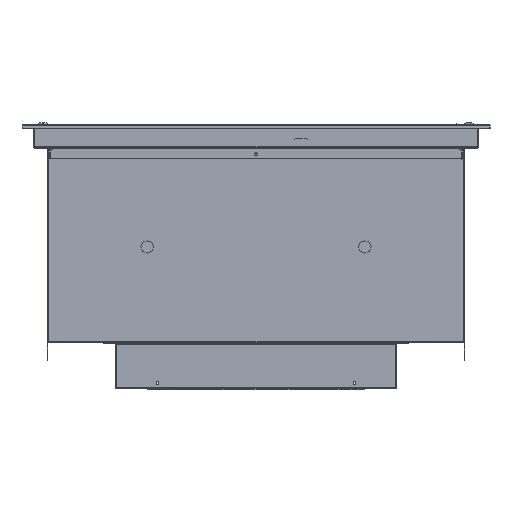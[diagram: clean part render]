
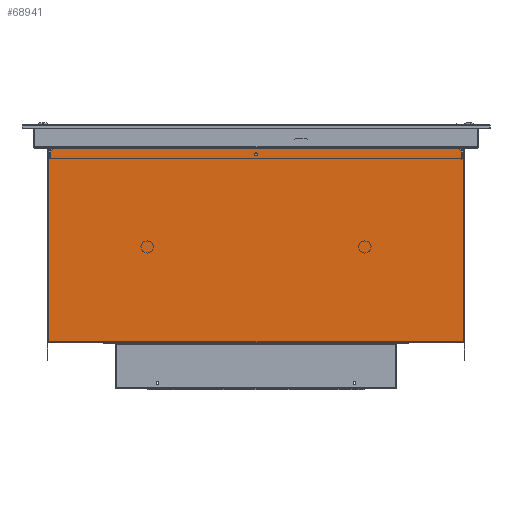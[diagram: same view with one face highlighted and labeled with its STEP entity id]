
A CAD part, left-side view. The second image highlights one B-rep face of the part: STEP entity #68941.
In plain terms, the highlighted planar face has unit normal (-1, 0, 0).
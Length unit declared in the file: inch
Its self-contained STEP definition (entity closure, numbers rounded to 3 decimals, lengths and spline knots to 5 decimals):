
#651 = CARTESIAN_POINT ( 'NONE',  ( -10.56225, -10.26604, -1.228 ) ) ;
#974 = AXIS2_PLACEMENT_3D ( 'NONE', #75238, #104616, #67732 ) ;
#2162 = DIRECTION ( 'NONE',  ( 0., 0., 1. ) ) ;
#5170 = ORIENTED_EDGE ( 'NONE', *, *, #72469, .T. ) ;
#7768 = ORIENTED_EDGE ( 'NONE', *, *, #30643, .T. ) ;
#8228 = CARTESIAN_POINT ( 'NONE',  ( -10.56225, -10.50725, -1.46921 ) ) ;
#9038 = VERTEX_POINT ( 'NONE', #98297 ) ;
#9711 = ORIENTED_EDGE ( 'NONE', *, *, #87036, .T. ) ;
#9765 = EDGE_LOOP ( 'NONE', ( #117261, #34591, #9711, #45927 ) ) ;
#10561 = VERTEX_POINT ( 'NONE', #41251 ) ;
#11491 = EDGE_CURVE ( 'NONE', #16533, #76732, #91624, .T. ) ;
#12156 = LINE ( 'NONE', #115344, #65140 ) ;
#12678 = LINE ( 'NONE', #105908, #51299 ) ;
#13471 = VERTEX_POINT ( 'NONE', #106038 ) ;
#13824 = LINE ( 'NONE', #46136, #112776 ) ;
#15050 = VECTOR ( 'NONE', #33085, 39.37008 ) ;
#15260 = DIRECTION ( 'NONE',  ( -1., 0., 0. ) ) ;
#16169 = EDGE_CURVE ( 'NONE', #87390, #13471, #106042, .T. ) ;
#16489 = DIRECTION ( 'NONE',  ( 0., 0., -1. ) ) ;
#16533 = VERTEX_POINT ( 'NONE', #33808 ) ;
#16562 = CARTESIAN_POINT ( 'NONE',  ( -10.56225, -10.52225, -1.46921 ) ) ;
#23327 = EDGE_CURVE ( 'NONE', #69341, #111918, #38243, .T. ) ;
#26135 = DIRECTION ( 'NONE',  ( 0., 1., 0. ) ) ;
#26754 = EDGE_CURVE ( 'NONE', #10561, #116802, #13824, .T. ) ;
#28975 = ORIENTED_EDGE ( 'NONE', *, *, #11491, .T. ) ;
#29466 = DIRECTION ( 'NONE',  ( 0., 1., 0. ) ) ;
#29709 = DIRECTION ( 'NONE',  ( 0., 0., -1. ) ) ;
#30643 = EDGE_CURVE ( 'NONE', #9038, #77417, #12678, .T. ) ;
#31280 = DIRECTION ( 'NONE',  ( 0., 0., -1. ) ) ;
#32200 = LINE ( 'NONE', #119049, #71233 ) ;
#32825 = CARTESIAN_POINT ( 'NONE',  ( -10.56225, 10.26604, -1.228 ) ) ;
#33085 = DIRECTION ( 'NONE',  ( 0., -1., 0. ) ) ;
#33688 = LINE ( 'NONE', #87034, #69452 ) ;
#33715 = AXIS2_PLACEMENT_3D ( 'NONE', #32825, #15260, #82183 ) ;
#33808 = CARTESIAN_POINT ( 'NONE',  ( -10.56225, -10.27664, -1.21739 ) ) ;
#33968 = DIRECTION ( 'NONE',  ( 0., 0., 1. ) ) ;
#34591 = ORIENTED_EDGE ( 'NONE', *, *, #109020, .T. ) ;
#34938 = EDGE_CURVE ( 'NONE', #13471, #16533, #33688, .T. ) ;
#35990 = VERTEX_POINT ( 'NONE', #122361 ) ;
#37619 = CIRCLE ( 'NONE', #33715, 0.015 ) ;
#38243 = LINE ( 'NONE', #48837, #103453 ) ;
#39882 = CARTESIAN_POINT ( 'NONE',  ( -10.56225, -10.26604, -1.213 ) ) ;
#40384 = VECTOR ( 'NONE', #54035, 39.37008 ) ;
#41251 = CARTESIAN_POINT ( 'NONE',  ( -10.56225, -10.52225, -11.0186 ) ) ;
#42474 = LINE ( 'NONE', #116867, #15050 ) ;
#42947 = CIRCLE ( 'NONE', #974, 0.07 ) ;
#44455 = EDGE_CURVE ( 'NONE', #111918, #46570, #32200, .T. ) ;
#44642 = CARTESIAN_POINT ( 'NONE',  ( -10.56225, 10.51786, -1.45861 ) ) ;
#45471 = CIRCLE ( 'NONE', #101346, 0.015 ) ;
#45617 = DIRECTION ( 'NONE',  ( 1., 0., 0. ) ) ;
#45927 = ORIENTED_EDGE ( 'NONE', *, *, #23327, .T. ) ;
#46136 = CARTESIAN_POINT ( 'NONE',  ( -10.56225, 10.56225, -11.0186 ) ) ;
#46570 = VERTEX_POINT ( 'NONE', #56181 ) ;
#47640 = DIRECTION ( 'NONE',  ( 0., 0., -1. ) ) ;
#48837 = CARTESIAN_POINT ( 'NONE',  ( -10.56225, 0.07, -1.5846 ) ) ;
#51058 = EDGE_CURVE ( 'NONE', #115521, #35990, #90251, .T. ) ;
#51299 = VECTOR ( 'NONE', #69603, 39.37008 ) ;
#52252 = CARTESIAN_POINT ( 'NONE',  ( -10.56225, 10.50725, -1.46921 ) ) ;
#52694 = CARTESIAN_POINT ( 'NONE',  ( -10.56225, -10.52225, -11.0186 ) ) ;
#54035 = DIRECTION ( 'NONE',  ( 0., -1., 0. ) ) ;
#56181 = CARTESIAN_POINT ( 'NONE',  ( -10.56225, 0.07, -1.5146 ) ) ;
#61621 = DIRECTION ( 'NONE',  ( 0., 0., -1. ) ) ;
#63054 = AXIS2_PLACEMENT_3D ( 'NONE', #94373, #45617, #103735 ) ;
#63060 = CARTESIAN_POINT ( 'NONE',  ( -10.56225, -0.07, -1.5146 ) ) ;
#63140 = ORIENTED_EDGE ( 'NONE', *, *, #16169, .T. ) ;
#63170 = CARTESIAN_POINT ( 'NONE',  ( -10.56225, 10.52225, -1.46921 ) ) ;
#64956 = PLANE ( 'NONE',  #63054 ) ;
#65140 = VECTOR ( 'NONE', #29709, 39.37008 ) ;
#66269 = CARTESIAN_POINT ( 'NONE',  ( -10.56225, 0.07, -1.5846 ) ) ;
#66470 = DIRECTION ( 'NONE',  ( 1., 0., 0. ) ) ;
#66827 = ORIENTED_EDGE ( 'NONE', *, *, #26754, .F. ) ;
#66932 = EDGE_CURVE ( 'NONE', #116802, #96096, #94643, .T. ) ;
#66987 = VECTOR ( 'NONE', #102751, 39.37008 ) ;
#67732 = DIRECTION ( 'NONE',  ( 0., 0., -1. ) ) ;
#68941 = ADVANCED_FACE ( 'Face1', ( #83754, #122498 ), #64956, .F. ) ;
#69341 = VERTEX_POINT ( 'NONE', #111790 ) ;
#69433 = CARTESIAN_POINT ( 'NONE',  ( -10.56225, 0., -1.214 ) ) ;
#69452 = VECTOR ( 'NONE', #71160, 39.37008 ) ;
#69603 = DIRECTION ( 'NONE',  ( 0., 0.707, -0.707 ) ) ;
#70433 = VERTEX_POINT ( 'NONE', #63060 ) ;
#70452 = CARTESIAN_POINT ( 'NONE',  ( -10.56225, 10.26604, -1.213 ) ) ;
#70793 = VERTEX_POINT ( 'NONE', #70452 ) ;
#71160 = DIRECTION ( 'NONE',  ( 0., 0.707, 0.707 ) ) ;
#71233 = VECTOR ( 'NONE', #2162, 39.37008 ) ;
#72469 = EDGE_CURVE ( 'NONE', #70793, #9038, #37619, .T. ) ;
#72481 = ORIENTED_EDGE ( 'NONE', *, *, #66932, .F. ) ;
#72765 = LINE ( 'NONE', #100307, #40384 ) ;
#75238 = CARTESIAN_POINT ( 'NONE',  ( -10.56225, 0., -1.5146 ) ) ;
#75618 = AXIS2_PLACEMENT_3D ( 'NONE', #651, #106920, #31280 ) ;
#76214 = ORIENTED_EDGE ( 'NONE', *, *, #95289, .T. ) ;
#76732 = VERTEX_POINT ( 'NONE', #39882 ) ;
#77417 = VERTEX_POINT ( 'NONE', #44642 ) ;
#77433 = EDGE_CURVE ( 'NONE', #83304, #115521, #94118, .T. ) ;
#78314 = EDGE_CURVE ( 'NONE', #70793, #35990, #72765, .T. ) ;
#80754 = ORIENTED_EDGE ( 'NONE', *, *, #117118, .T. ) ;
#82183 = DIRECTION ( 'NONE',  ( 0., 0., -1. ) ) ;
#83304 = VERTEX_POINT ( 'NONE', #115164 ) ;
#83754 = FACE_BOUND ( 'NONE', #9765, .T. ) ;
#84073 = ORIENTED_EDGE ( 'NONE', *, *, #122521, .F. ) ;
#84531 = DIRECTION ( 'NONE',  ( -1., 0., 0. ) ) ;
#84541 = DIRECTION ( 'NONE',  ( 1., 0., 0. ) ) ;
#84618 = CARTESIAN_POINT ( 'NONE',  ( -10.56225, 0., -1.101 ) ) ;
#87034 = CARTESIAN_POINT ( 'NONE',  ( -10.56225, -10.52225, -1.463 ) ) ;
#87036 = EDGE_CURVE ( 'NONE', #70433, #69341, #12156, .T. ) ;
#87390 = VERTEX_POINT ( 'NONE', #16562 ) ;
#89067 = ORIENTED_EDGE ( 'NONE', *, *, #77433, .T. ) ;
#89836 = ORIENTED_EDGE ( 'NONE', *, *, #34938, .T. ) ;
#90251 = CIRCLE ( 'NONE', #116187, 0.113 ) ;
#91624 = CIRCLE ( 'NONE', #75618, 0.015 ) ;
#94118 = CIRCLE ( 'NONE', #104086, 0.113 ) ;
#94373 = CARTESIAN_POINT ( 'NONE',  ( -10.56225, 0., 0. ) ) ;
#94643 = LINE ( 'NONE', #104610, #66987 ) ;
#95156 = CARTESIAN_POINT ( 'NONE',  ( -10.56225, 0., -1.101 ) ) ;
#95289 = EDGE_CURVE ( 'NONE', #77417, #96096, #45471, .T. ) ;
#96096 = VERTEX_POINT ( 'NONE', #63170 ) ;
#98297 = CARTESIAN_POINT ( 'NONE',  ( -10.56225, 10.27664, -1.21739 ) ) ;
#99822 = ORIENTED_EDGE ( 'NONE', *, *, #51058, .T. ) ;
#100307 = CARTESIAN_POINT ( 'NONE',  ( -10.56225, 10.56225, -1.213 ) ) ;
#101346 = AXIS2_PLACEMENT_3D ( 'NONE', #52252, #102233, #61621 ) ;
#101740 = ORIENTED_EDGE ( 'NONE', *, *, #78314, .F. ) ;
#102233 = DIRECTION ( 'NONE',  ( -1., 0., 0. ) ) ;
#102654 = LINE ( 'NONE', #52694, #103983 ) ;
#102751 = DIRECTION ( 'NONE',  ( 0., 0., 1. ) ) ;
#103453 = VECTOR ( 'NONE', #29466, 39.37008 ) ;
#103735 = DIRECTION ( 'NONE',  ( 0., 0., -1. ) ) ;
#103983 = VECTOR ( 'NONE', #33968, 39.37008 ) ;
#104086 = AXIS2_PLACEMENT_3D ( 'NONE', #84618, #66470, #16489 ) ;
#104610 = CARTESIAN_POINT ( 'NONE',  ( -10.56225, 10.52225, -11.0186 ) ) ;
#104616 = DIRECTION ( 'NONE',  ( 1., 0., 0. ) ) ;
#105908 = CARTESIAN_POINT ( 'NONE',  ( -10.56225, 10.27225, -1.213 ) ) ;
#106038 = CARTESIAN_POINT ( 'NONE',  ( -10.56225, -10.51786, -1.45861 ) ) ;
#106042 = CIRCLE ( 'NONE', #122035, 0.015 ) ;
#106920 = DIRECTION ( 'NONE',  ( -1., 0., 0. ) ) ;
#109020 = EDGE_CURVE ( 'NONE', #46570, #70433, #42947, .T. ) ;
#111790 = CARTESIAN_POINT ( 'NONE',  ( -10.56225, -0.07, -1.5846 ) ) ;
#111918 = VERTEX_POINT ( 'NONE', #66269 ) ;
#112776 = VECTOR ( 'NONE', #26135, 39.37008 ) ;
#115164 = CARTESIAN_POINT ( 'NONE',  ( -10.56225, -0.015, -1.213 ) ) ;
#115344 = CARTESIAN_POINT ( 'NONE',  ( -10.56225, -0.07, -1.5846 ) ) ;
#115521 = VERTEX_POINT ( 'NONE', #69433 ) ;
#116187 = AXIS2_PLACEMENT_3D ( 'NONE', #95156, #84541, #47640 ) ;
#116507 = CARTESIAN_POINT ( 'NONE',  ( -10.56225, 10.52225, -11.0186 ) ) ;
#116802 = VERTEX_POINT ( 'NONE', #116507 ) ;
#116837 = EDGE_LOOP ( 'NONE', ( #84073, #89067, #99822, #101740, #5170, #7768, #76214, #72481, #66827, #80754, #63140, #89836, #28975 ) ) ;
#116867 = CARTESIAN_POINT ( 'NONE',  ( -10.56225, 10.56225, -1.213 ) ) ;
#117118 = EDGE_CURVE ( 'NONE', #10561, #87390, #102654, .T. ) ;
#117261 = ORIENTED_EDGE ( 'NONE', *, *, #44455, .T. ) ;
#119049 = CARTESIAN_POINT ( 'NONE',  ( -10.56225, 0.07, -1.5146 ) ) ;
#122035 = AXIS2_PLACEMENT_3D ( 'NONE', #8228, #84531, #122667 ) ;
#122361 = CARTESIAN_POINT ( 'NONE',  ( -10.56225, 0.015, -1.213 ) ) ;
#122498 = FACE_OUTER_BOUND ( 'NONE', #116837, .T. ) ;
#122521 = EDGE_CURVE ( 'NONE', #83304, #76732, #42474, .T. ) ;
#122667 = DIRECTION ( 'NONE',  ( 0., 0., -1. ) ) ;
